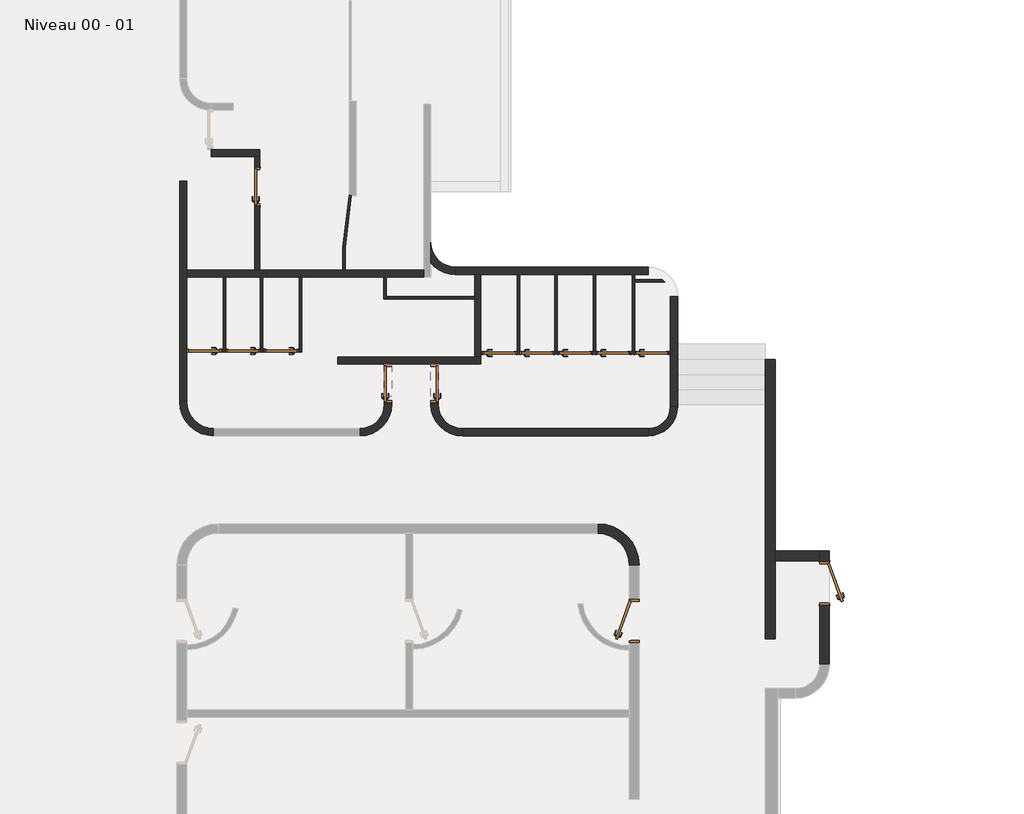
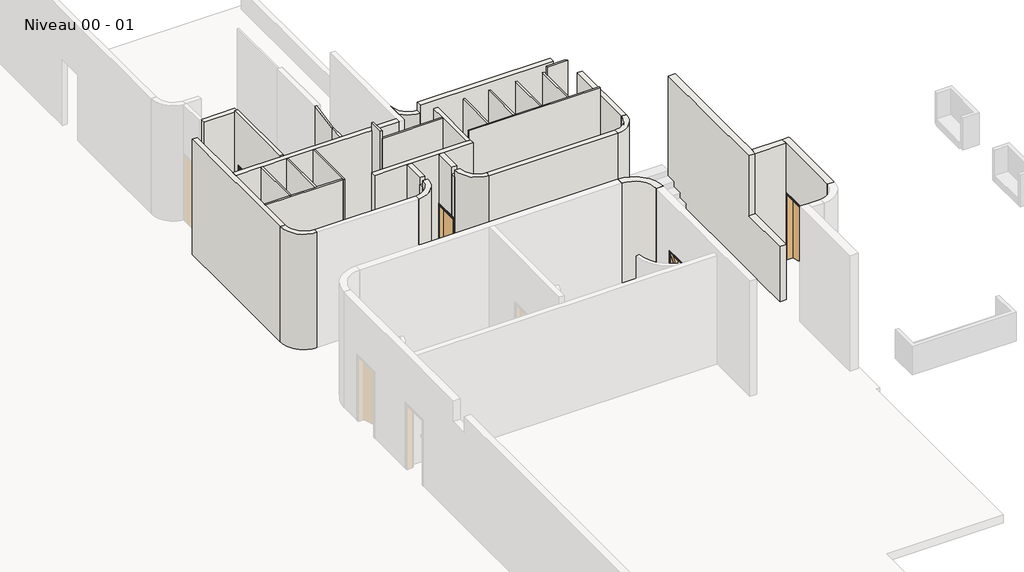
# One storey, part 6 of 8: 36 walls, 13 doors.
"""IFC4 building model written with IfcOpenShell, lengths in millimetres."""

from ifc_helpers import new_model, si_unit, point, frame, frame_2d, origin, place, context, project, spatial, polyline, circle_curve, trimmed, segment, composite_curve, outline, extrude, faceted_brep, transform, mapped, element, save
from ifc_brep_helpers import plane_surface, cylinder_surface, revolved_surface, advanced_brep
from components import door_eeb2bbe0, door_1f832047, door_bff29abf, door_23810e9f, door_a30d9446, door_0ca0b57b, door_4948b6b3

model = new_model("IFC4")

# Units and contexts
model_context = context("Model", 3, world=origin())
ifc_project = project(units=[si_unit("LENGTHUNIT", "METRE", prefix="MILLI")], contexts=[model_context])

# Site, building, storey
site = spatial("IfcSite", under=ifc_project)
building = spatial("IfcBuilding", under=site)
storey = spatial("IfcBuildingStorey", under=building, Name="Niveau 00 - 01", Elevation=253.3082742)

# Doors
placement = place(None, origin())
door_shape = door_eeb2bbe0(model_context)
element("IfcDoor", 1, ObjectType="@_Int. Simple : @_PP (0.73m x 2.04m)", at=placement, inside=storey, context=model_context, shape_type="MappedRepresentation", body=[
    mapped(door_shape, transform((-14350.58919, -7089.0543134, 253.3082742), x_axis=(0.0, 1.0, 0.0), y_axis=(-1.0, 0.0, 0.0), z_axis=(0.0, 0.0, 1.0))),
])
door_2_shape = door_1f832047(model_context)
element("IfcDoor", 2, ObjectType="@_Int. Simple : @_PP (0.73m x 2.04m)", at=placement, inside=storey, context=model_context, shape_type="MappedRepresentation", body=[
    mapped(door_2_shape, transform((-10722.9692071, -11123.990383, 253.3082742), x_axis=(0.0, 1.0, 0.0), y_axis=(-1.0, 0.0, 0.0), z_axis=(0.0, 0.0, 1.0))),
])
door_3_shape = door_bff29abf(model_context)
element("IfcDoor", 3, ObjectType="@_Int. Simple : @_PP (0.73m x 2.04m)", at=placement, inside=storey, context=model_context, shape_type="MappedRepresentation", body=[
    mapped(door_3_shape, transform((-11672.9692086, -11123.990383, 253.3082742), x_axis=(0.0, 1.0, 0.0), y_axis=(-1.0, 0.0, 0.0), z_axis=(0.0, 0.0, 1.0))),
])
door_4_shape = door_23810e9f(model_context)
element("IfcDoor", 4, ObjectType="@_Int. Simple : @_PP (0.63m x 2.04m)", at=placement, inside=storey, context=model_context, shape_type="MappedRepresentation", body=[
    mapped(door_4_shape, transform((-9352.1064579, -10527.4520844, 253.3082742), x_axis=(1.0, 0.0, 0.0), y_axis=(0.0, 1.0, 0.0), z_axis=(0.0, 0.0, 1.0))),
])
element("IfcDoor", 5, ObjectType="@_Int. Simple : @_PP (0.63m x 2.04m)", at=placement, inside=storey, context=model_context, shape_type="MappedRepresentation", body=[
    mapped(door_4_shape, transform((-8589.6122341, -10527.4520844, 253.3082742), x_axis=(1.0, 0.0, 0.0), y_axis=(0.0, 1.0, 0.0), z_axis=(0.0, 0.0, 1.0))),
])
element("IfcDoor", 6, ObjectType="@_Int. Simple : @_PP (0.63m x 2.04m)", at=placement, inside=storey, context=model_context, shape_type="MappedRepresentation", body=[
    mapped(door_4_shape, transform((-7805.4339388, -10527.4520844, 253.3082742), x_axis=(1.0, 0.0, 0.0), y_axis=(0.0, 1.0, 0.0), z_axis=(0.0, 0.0, 1.0))),
])
element("IfcDoor", 7, ObjectType="@_Int. Simple : @_PP (0.63m x 2.04m)", at=placement, inside=storey, context=model_context, shape_type="MappedRepresentation", body=[
    mapped(door_4_shape, transform((-7024.7375563, -10527.4520844, 253.3082742), x_axis=(1.0, 0.0, 0.0), y_axis=(0.0, 1.0, 0.0), z_axis=(0.0, 0.0, 1.0))),
])
element("IfcDoor", 8, ObjectType="@_Int. Simple : @_PP (0.63m x 2.04m)", at=placement, inside=storey, context=model_context, shape_type="MappedRepresentation", body=[
    mapped(door_4_shape, transform((-6236.8633627, -10527.4520844, 253.3082742), x_axis=(1.0, 0.0, 0.0), y_axis=(0.0, 1.0, 0.0), z_axis=(0.0, 0.0, 1.0))),
])
door_5_shape = door_a30d9446(model_context)
element("IfcDoor", 9, ObjectType="@_Int. Simple : @_PP (0.63m x 2.04m)", at=placement, inside=storey, context=model_context, shape_type="MappedRepresentation", body=[
    mapped(door_5_shape, transform((-15477.1989008, -10482.4520844, 253.3082742), x_axis=(-1.0, 0.0, 0.0), y_axis=(0.0, -1.0, 0.0), z_axis=(0.0, 0.0, 1.0))),
])
element("IfcDoor", 10, ObjectType="@_Int. Simple : @_PP (0.63m x 2.04m)", at=placement, inside=storey, context=model_context, shape_type="MappedRepresentation", body=[
    mapped(door_5_shape, transform((-14679.4683876, -10482.4520844, 253.3082742), x_axis=(-1.0, 0.0, 0.0), y_axis=(0.0, -1.0, 0.0), z_axis=(0.0, 0.0, 1.0))),
])
element("IfcDoor", 11, ObjectType="@_Int. Simple : @_PP (0.63m x 2.04m)", at=placement, inside=storey, context=model_context, shape_type="MappedRepresentation", body=[
    mapped(door_5_shape, transform((-13889.1961506, -10482.4520844, 253.3082742), x_axis=(-1.0, 0.0, 0.0), y_axis=(0.0, -1.0, 0.0), z_axis=(0.0, 0.0, 1.0))),
])
door_6_shape = door_0ca0b57b(model_context)
element("IfcDoor", 12, ObjectType="@_Int. Simple : @_PP (0.83m x 2.04m)", at=placement, inside=storey, context=model_context, shape_type="MappedRepresentation", body=[
    mapped(door_6_shape, transform((-2732.6697104, -15214.4449697, 253.3082742), x_axis=(0.0, 1.0, 0.0), y_axis=(-1.0, 0.0, 0.0), z_axis=(0.0, 0.0, 1.0))),
])
door_7_shape = door_4948b6b3(model_context)
element("IfcDoor", 13, ObjectType="@_Int. Simple : @_PP (0.83m x 2.04m)", at=placement, inside=storey, context=model_context, shape_type="MappedRepresentation", body=[
    mapped(door_7_shape, transform((-6631.0863278, -15984.0885527, 253.3082742), x_axis=(0.0, 1.0, 0.0), y_axis=(-1.0, 0.0, 0.0), z_axis=(0.0, 0.0, 1.0))),
])

# Walls
element("IfcWall", 14, ObjectType="@_Générique - Int. 100 mm", at=placement, inside=storey, context=model_context, shape_type="Brep", body=[
    faceted_brep([(-14400.58919, -8826.6151381, 253.3082742), (-14400.58919, -8826.6151381, 3921.8727639), (-14400.58919, -6509.0543134, 3921.8727639), (-14400.58919, -6509.0543134, 253.3082742), (-14400.58919, -6724.0543134, 253.3082742), (-14400.58919, -6724.0543134, 2328.3082742), (-14400.58919, -7524.0543134, 2328.3082742), (-14400.58919, -7524.0543134, 253.3082742), (-14300.58919, -8826.6151381, 3921.8727639), (-14300.58919, -8826.6151381, 253.3082742), (-14300.58919, -7524.0543134, 253.3082742), (-14300.58919, -7524.0543134, 2328.3082742), (-14300.58919, -6724.0543134, 2328.3082742), (-14300.58919, -6724.0543134, 253.3082742), (-14300.58919, -6509.0543134, 253.3082742), (-14300.58919, -6509.0543134, 3871.8727639), (-14300.58919, -6509.0543134, 3921.8727639)], [[[0, 1, 2, 3, 4, 5, 6, 7]], [[8, 9, 10, 11, 12, 13, 14, 15, 16]], [[9, 0, 7, 10]], [[3, 14, 13, 4]], [[1, 0, 9, 8]], [[2, 1, 8, 16]], [[3, 2, 16, 15, 14]], [[12, 5, 4, 13]], [[6, 11, 10, 7]], [[11, 6, 5, 12]]]),
])
element("IfcWall", 15, ObjectType="@_Générique - Int. 120 mm", at=placement, inside=storey, context=model_context, shape_type="Brep", body=[
    faceted_brep([(-9897.1064579, -8921.2578611, 253.3082742), (-9897.1064579, -9371.6151381, 253.3082742), (-9897.1064579, -9421.6151381, 253.3082742), (-9897.1064579, -10608.990383, 253.3082742), (-9897.1064579, -10608.990383, 3871.8727639), (-9897.1064579, -9421.6151381, 3871.8727639), (-9897.1064579, -9371.6151381, 3871.8727639), (-9897.1064579, -8921.2578611, 3871.8727639), (-9777.1064579, -8921.2578611, 253.3082742), (-9777.1064579, -8921.2578611, 3871.8727639), (-9777.1064579, -10608.990383, 3871.8727639), (-9777.1064579, -10608.990383, 253.3082742), (-9777.1064579, -10552.4520844, 253.3082742), (-9777.1064579, -10502.4520844, 253.3082742)], [[[0, 1, 2, 3, 4, 5, 6, 7]], [[8, 9, 10, 11, 12, 13]], [[3, 2, 1, 0, 8, 13, 12, 11]], [[4, 3, 11, 10]], [[0, 7, 9, 8]], [[7, 6, 5, 4, 10, 9]]]),
])
element("IfcWall", 16, ObjectType="@_Générique - Int. 50 mm", at=placement, inside=storey, context=model_context, shape_type="Brep", body=[
    faceted_brep([(-13443.9891644, -10507.4520844, 253.3082742), (-13443.9891644, -8976.6151381, 253.3082742), (-13443.9891644, -8976.6151381, 3871.8727639), (-13443.9891644, -10507.4520844, 3871.8727639), (-13493.9891644, -10507.4520844, 253.3082742), (-13493.9891644, -10507.4520844, 3871.8727639), (-13493.9891644, -10457.4520844, 3871.8727639), (-13493.9891644, -8976.6151381, 3871.8727639), (-13493.9891644, -8976.6151381, 253.3082742), (-13493.9891644, -10457.4520844, 253.3082742)], [[[0, 1, 2, 3]], [[4, 5, 6, 7, 8, 9]], [[1, 0, 4, 9, 8]], [[0, 3, 5, 4]], [[2, 1, 8, 7]], [[3, 2, 7, 6, 5]]]),
])
element("IfcWall", 17, ObjectType="@_Générique - Int. 50 mm", at=placement, inside=storey, context=model_context, shape_type="Brep", body=[
    faceted_brep([(-13493.9891644, -10457.4520844, 3871.8727639), (-13493.9891644, -10457.4520844, 253.3082742), (-13504.1961506, -10457.4520844, 253.3082742), (-13504.1961506, -10457.4520844, 2328.3082742), (-14204.1961506, -10457.4520844, 2328.3082742), (-14204.1961506, -10457.4520844, 253.3082742), (-14240.58919, -10457.4520844, 253.3082742), (-14290.58919, -10457.4520844, 253.3082742), (-14294.4683876, -10457.4520844, 253.3082742), (-14294.4683876, -10457.4520844, 2328.3082742), (-14994.4683876, -10457.4520844, 2328.3082742), (-14994.4683876, -10457.4520844, 253.3082742), (-15044.4683876, -10457.4520844, 253.3082742), (-15092.1989008, -10457.4520844, 253.3082742), (-15092.1989008, -10457.4520844, 2328.3082742), (-15792.1989008, -10457.4520844, 2328.3082742), (-15792.1989008, -10457.4520844, 253.3082742), (-15793.989168, -10457.4520844, 253.3082742), (-15793.989168, -10457.4520844, 3871.8727639), (-15044.4683876, -10457.4520844, 3871.8727639), (-14994.4683876, -10457.4520844, 3871.8727639), (-14290.58919, -10457.4520844, 3871.8727639), (-14240.58919, -10457.4520844, 3871.8727639), (-13493.9891644, -10507.4520844, 253.3082742), (-13493.9891644, -10507.4520844, 3871.8727639), (-15793.989168, -10507.4520844, 3871.8727639), (-15793.989168, -10507.4520844, 253.3082742), (-15792.1989008, -10507.4520844, 253.3082742), (-15792.1989008, -10507.4520844, 2328.3082742), (-15092.1989008, -10507.4520844, 2328.3082742), (-15092.1989008, -10507.4520844, 253.3082742), (-14994.4683876, -10507.4520844, 253.3082742), (-14994.4683876, -10507.4520844, 2328.3082742), (-14294.4683876, -10507.4520844, 2328.3082742), (-14294.4683876, -10507.4520844, 253.3082742), (-14204.1961506, -10507.4520844, 253.3082742), (-14204.1961506, -10507.4520844, 2328.3082742), (-13504.1961506, -10507.4520844, 2328.3082742), (-13504.1961506, -10507.4520844, 253.3082742)], [[[0, 1, 2, 3, 4, 5, 6, 7, 8, 9, 10, 11, 12, 13, 14, 15, 16, 17, 18, 19, 20, 21, 22]], [[23, 24, 25, 26, 27, 28, 29, 30, 31, 32, 33, 34, 35, 36, 37, 38]], [[1, 23, 38, 2]], [[26, 17, 16, 27]], [[30, 13, 12, 11, 31]], [[34, 8, 7, 6, 5, 35]], [[1, 0, 24, 23]], [[18, 17, 26, 25]], [[16, 15, 28, 27]], [[28, 15, 14, 29]], [[14, 13, 30, 29]], [[11, 10, 32, 31]], [[10, 9, 33, 32]], [[9, 8, 34, 33]], [[4, 36, 35, 5]], [[36, 4, 3, 37]], [[37, 3, 2, 38]], [[0, 22, 21, 20, 19, 18, 25, 24]]]),
])
element("IfcWall", 18, ObjectType="@_Générique - Int. 50 mm", at=placement, inside=storey, context=model_context, shape_type="SweptSolid", body=[
    extrude(outline(polyline([(-7419.0411738, -8921.2578611), (-7419.0411738, -10502.4520844), (-7469.0411738, -10502.4520844), (-7469.0411738, -8921.2578611), (-7419.0411738, -8921.2578611)])), frame((0.0, 0.0, 253.3082742), z_axis=(0.0, 0.0, 1.0), x_axis=(1.0, 0.0, 0.0)), (0.0, 0.0, 1.0), 3618.5644896),
])
element("IfcWall", 19, ObjectType="@_Générique - Int. 50 mm", at=placement, inside=storey, context=model_context, shape_type="Brep", body=[
    faceted_brep([(-6619.0411738, -10502.4520844, 253.3082742), (-6619.0411738, -9074.388129, 253.3082742), (-6619.0411738, -9024.388129, 253.3082742), (-6619.0411738, -8921.2578611, 253.3082742), (-6619.0411738, -8921.2578611, 3871.8727639), (-6619.0411738, -10502.4520844, 3871.8727639), (-6669.0411738, -10502.4520844, 253.3082742), (-6669.0411738, -10502.4520844, 3871.8727639), (-6669.0411738, -8921.2578611, 3871.8727639), (-6669.0411738, -8921.2578611, 253.3082742), (-6621.8633627, -10502.4520844, 253.3082742)], [[[0, 1, 2, 3, 4, 5]], [[6, 7, 8, 9]], [[3, 2, 1, 0, 10, 6, 9]], [[4, 3, 9, 8]], [[0, 5, 7, 6, 10]], [[5, 4, 8, 7]]]),
])
element("IfcWall", 20, ObjectType="@_Générique - Int. 50 mm", at=placement, inside=storey, context=model_context, shape_type="SweptSolid", body=[
    extrude(outline(polyline([(-8211.8267039, -8921.2578611), (-8211.8267039, -10502.4520844), (-8261.8267039, -10502.4520844), (-8261.8267039, -8921.2578611), (-8211.8267039, -8921.2578611)])), frame((0.0, 0.0, 253.3082742), z_axis=(0.0, 0.0, 1.0), x_axis=(1.0, 0.0, 0.0)), (0.0, 0.0, 1.0), 3618.5644896),
])
element("IfcWall", 21, ObjectType="@_Générique - Int. 50 mm", at=placement, inside=storey, context=model_context, shape_type="Brep", body=[
    faceted_brep([(-8974.6122341, -10502.4520844, 253.3082742), (-8974.6122341, -8921.2578611, 253.3082742), (-8974.6122341, -8921.2578611, 3871.8727639), (-8974.6122341, -10502.4520844, 3871.8727639), (-8974.6122341, -10502.4520844, 2328.3082742), (-9024.6122341, -10502.4520844, 253.3082742), (-9024.6122341, -10502.4520844, 3871.8727639), (-9024.6122341, -8921.2578611, 3871.8727639), (-9024.6122341, -8921.2578611, 253.3082742)], [[[0, 1, 2, 3, 4]], [[5, 6, 7, 8]], [[1, 0, 5, 8]], [[2, 1, 8, 7]], [[0, 4, 3, 6, 5]], [[3, 2, 7, 6]]]),
])
element("IfcWall", 22, ObjectType="@_Générique - Int. 50 mm", at=placement, inside=storey, context=model_context, shape_type="SweptSolid", body=[
    extrude(outline(polyline([(-11707.6816324, -9371.6151381), (-9897.1064579, -9371.6151381), (-9897.1064579, -9421.6151381), (-11707.6816324, -9421.6151381), (-11707.6816324, -9371.6151381)])), frame((0.0, 0.0, 253.3082742), z_axis=(0.0, 0.0, 1.0), x_axis=(1.0, 0.0, 0.0)), (0.0, 0.0, 1.0), 3618.5644896),
])
element("IfcWall", 23, ObjectType="@_Générique - Int. 50 mm", at=placement, inside=storey, context=model_context, shape_type="Brep", body=[
    faceted_brep([(-11707.6816324, -9421.6151381, 253.3082742), (-11707.6816324, -9371.6151381, 253.3082742), (-11707.6816324, -8976.6151381, 253.3082742), (-11707.6816324, -8976.6151381, 4121.8727639), (-11707.6816324, -9421.6151381, 4121.8727639), (-11707.6816324, -9421.6151381, 3871.8727639), (-11757.6816324, -9421.6151381, 253.3082742), (-11757.6816324, -9421.6151381, 4121.8727639), (-11757.6816324, -8976.6151381, 4121.8727639), (-11757.6816324, -8976.6151381, 253.3082742)], [[[0, 1, 2, 3, 4, 5]], [[6, 7, 8, 9]], [[2, 1, 0, 6, 9]], [[4, 3, 8, 7]], [[3, 2, 9, 8]], [[0, 5, 4, 7, 6]]]),
])
element("IfcWall", 24, ObjectType="@_Générique - Int. 50 mm", at=placement, inside=storey, context=model_context, shape_type="SweptSolid", body=[
    extrude(outline(polyline([(-14240.58919, -8976.6151381), (-14240.58919, -10457.4520844), (-14290.58919, -10457.4520844), (-14290.58919, -8976.6151381), (-14240.58919, -8976.6151381)])), frame((0.0, 0.0, 253.3082742), z_axis=(0.0, 0.0, 1.0), x_axis=(1.0, 0.0, 0.0)), (0.0, 0.0, 1.0), 3618.5644896),
])
element("IfcWall", 25, ObjectType="@_Générique - Int. 50 mm", at=placement, inside=storey, context=model_context, shape_type="Brep", body=[
    faceted_brep([(-14994.4683876, -10457.4520844, 253.3082742), (-14994.4683876, -8976.6151381, 253.3082742), (-14994.4683876, -8976.6151381, 3871.8727639), (-14994.4683876, -10457.4520844, 3871.8727639), (-14994.4683876, -10457.4520844, 2328.3082742), (-15044.4683876, -10457.4520844, 253.3082742), (-15044.4683876, -10457.4520844, 3871.8727639), (-15044.4683876, -8976.6151381, 3871.8727639), (-15044.4683876, -8976.6151381, 253.3082742)], [[[0, 1, 2, 3, 4]], [[5, 6, 7, 8]], [[1, 0, 5, 8]], [[2, 1, 8, 7]], [[0, 4, 3, 6, 5]], [[3, 2, 7, 6]]]),
])
element("IfcWall", 26, ObjectType="@_Générique - Int. 50 mm", at=placement, inside=storey, context=model_context, shape_type="SweptSolid", body=[
    extrude(outline(polyline([(-12598.6184901, -8370.2050819), (-12473.0800803, -7296.0602627), (-12472.7391726, -7296.1001055), (-12472.7391726, -7302.156728), (-12423.4522682, -7302.156728), (-12548.6184901, -8373.1169943), (-12598.6184901, -8370.2050819)])), frame((0.0, 0.0, 253.3082742), z_axis=(0.0, 0.0, 1.0), x_axis=(1.0, 0.0, 0.0)), (0.0, 0.0, 1.0), 3618.5644896),
])
element("IfcWall", 27, ObjectType="@_Générique - Int. 50 mm", at=placement, inside=storey, context=model_context, shape_type="SweptSolid", body=[
    extrude(outline(polyline([(-12548.6184901, -8373.1169943), (-12548.6184901, -8823.8795173), (-12598.6184901, -8823.8795173), (-12598.6184901, -8370.2050819), (-12548.6184901, -8373.1169943)])), frame((0.0, 0.0, 253.3082742), z_axis=(0.0, 0.0, 1.0), x_axis=(1.0, 0.0, 0.0)), (0.0, 0.0, 1.0), 3618.5644896),
])
element("IfcWall", 28, ObjectType="@_Générique - Int. 50 mm", at=placement, inside=storey, context=model_context, shape_type="Brep", body=[
    faceted_brep([(-9777.1064579, -10502.4520844, 4121.8727639), (-5893.9891691, -10502.4520844, 4121.8727639), (-5893.9891691, -10502.4520844, 253.3082742), (-5921.8633627, -10502.4520844, 253.3082742), (-5921.8633627, -10502.4520844, 2328.3082742), (-6621.8633627, -10502.4520844, 2328.3082742), (-6621.8633627, -10502.4520844, 253.3082742), (-6669.0411738, -10502.4520844, 253.3082742), (-6709.7375563, -10502.4520844, 253.3082742), (-6709.7375563, -10502.4520844, 2328.3082742), (-7409.7375563, -10502.4520844, 2328.3082742), (-7409.7375563, -10502.4520844, 253.3082742), (-7419.0411738, -10502.4520844, 253.3082742), (-7469.0411738, -10502.4520844, 253.3082742), (-7490.4339388, -10502.4520844, 253.3082742), (-7490.4339388, -10502.4520844, 2328.3082742), (-8190.4339388, -10502.4520844, 2328.3082742), (-8190.4339388, -10502.4520844, 253.3082742), (-8211.8267039, -10502.4520844, 253.3082742), (-8261.8267039, -10502.4520844, 253.3082742), (-8274.6122341, -10502.4520844, 253.3082742), (-8274.6122341, -10502.4520844, 2328.3082742), (-8974.6122341, -10502.4520844, 2328.3082742), (-8974.6122341, -10502.4520844, 253.3082742), (-9024.6122341, -10502.4520844, 253.3082742), (-9037.1064579, -10502.4520844, 253.3082742), (-9037.1064579, -10502.4520844, 2328.3082742), (-9737.1064579, -10502.4520844, 2328.3082742), (-9737.1064579, -10502.4520844, 253.3082742), (-9777.1064579, -10502.4520844, 253.3082742), (-5893.9891691, -10552.4520844, 4121.8727639), (-9777.1064579, -10552.4520844, 4121.8727639), (-9777.1064579, -10552.4520844, 253.3082742), (-9737.1064579, -10552.4520844, 253.3082742), (-9737.1064579, -10552.4520844, 2328.3082742), (-9037.1064579, -10552.4520844, 2328.3082742), (-9037.1064579, -10552.4520844, 253.3082742), (-8974.6122341, -10552.4520844, 253.3082742), (-8974.6122341, -10552.4520844, 2328.3082742), (-8274.6122341, -10552.4520844, 2328.3082742), (-8274.6122341, -10552.4520844, 253.3082742), (-8190.4339388, -10552.4520844, 253.3082742), (-8190.4339388, -10552.4520844, 2328.3082742), (-7490.4339388, -10552.4520844, 2328.3082742), (-7490.4339388, -10552.4520844, 253.3082742), (-7409.7375563, -10552.4520844, 253.3082742), (-7409.7375563, -10552.4520844, 2328.3082742), (-6709.7375563, -10552.4520844, 2328.3082742), (-6709.7375563, -10552.4520844, 253.3082742), (-6621.8633627, -10552.4520844, 253.3082742), (-6621.8633627, -10552.4520844, 2328.3082742), (-5921.8633627, -10552.4520844, 2328.3082742), (-5921.8633627, -10552.4520844, 253.3082742), (-5893.9891691, -10552.4520844, 253.3082742)], [[[0, 1, 2, 3, 4, 5, 6, 7, 8, 9, 10, 11, 12, 13, 14, 15, 16, 17, 18, 19, 20, 21, 22, 23, 24, 25, 26, 27, 28, 29]], [[30, 31, 32, 33, 34, 35, 36, 37, 38, 39, 40, 41, 42, 43, 44, 45, 46, 47, 48, 49, 50, 51, 52, 53]], [[32, 29, 28, 33]], [[2, 53, 52, 3]], [[36, 25, 24, 23, 37]], [[40, 20, 19, 18, 17, 41]], [[44, 14, 13, 12, 11, 45]], [[48, 8, 7, 6, 49]], [[1, 0, 31, 30]], [[0, 29, 32, 31]], [[2, 1, 30, 53]], [[35, 26, 25, 36]], [[26, 35, 34, 27]], [[27, 34, 33, 28]], [[39, 21, 20, 40]], [[21, 39, 38, 22]], [[22, 38, 37, 23]], [[43, 15, 14, 44]], [[15, 43, 42, 16]], [[16, 42, 41, 17]], [[47, 9, 8, 48]], [[9, 47, 46, 10]], [[10, 46, 45, 11]], [[51, 4, 3, 52]], [[4, 51, 50, 5]], [[5, 50, 49, 6]]]),
])
element("IfcWall", 29, ObjectType="@_Générique - Int. 50 mm", at=placement, inside=storey, context=model_context, shape_type="SweptSolid", body=[
    extrude(outline(composite_curve([segment(polyline([(-6004.8830572, -9074.388129), (-6619.0411738, -9074.388129), (-6619.0411738, -9024.388129), (-6056.2367827, -9024.388129)]), True, "CONTINUOUS"), segment(trimmed(circle_curve(frame_2d((-6342.3099361, -9369.5786245)), 448.3239089), [point((-6056.2367827, -9024.388129))], [point((-6004.8830572, -9074.388129))], False, "CARTESIAN"), True, "CONTINUOUS")], self_intersect=False)), frame((0.0, 0.0, 253.3082742), z_axis=(0.0, 0.0, 1.0), x_axis=(1.0, 0.0, 0.0)), (0.0, 0.0, 1.0), 3868.5644896),
])
element("IfcWall", 30, ObjectType="Ext. Voile BA 150", at=placement, inside=storey, context=model_context, shape_type="Brep", body=[
    faceted_brep([(-15943.989168, -7009.054313, 253.3082742), (-15943.989168, -11529.1151401, 253.3082742), (-15943.989168, -11529.1151401, 3871.8727639), (-15943.989168, -7009.054313, 3871.8727639), (-15793.989168, -7009.054313, 253.3082742), (-15793.989168, -7009.054313, 3871.8727639), (-15793.989168, -8826.6151381, 3871.8727639), (-15793.989168, -8976.6151381, 3871.8727639), (-15793.989168, -10457.4520844, 3871.8727639), (-15793.989168, -10507.4520844, 3871.8727639), (-15793.989168, -11529.1151401, 3871.8727639), (-15793.989168, -11529.1151401, 253.3082742), (-15793.989168, -10507.4520844, 253.3082742), (-15793.989168, -10457.4520844, 253.3082742), (-15793.989168, -8976.6151381, 253.3082742), (-15793.989168, -8826.6151381, 253.3082742)], [[[0, 1, 2, 3]], [[4, 5, 6, 7, 8, 9, 10, 11, 12, 13, 14, 15]], [[1, 0, 4, 15, 14, 13, 12, 11]], [[2, 1, 11, 10]], [[0, 3, 5, 4]], [[3, 2, 10, 9, 8, 7, 6, 5]]]),
])
element("IfcWall", 31, ObjectType="Ext. Voile BA 150", at=placement, inside=storey, context=model_context, shape_type="SweptSolid", body=[
    extrude(outline(composite_curve([segment(polyline([(-15943.9891684, -11529.1151401), (-15793.9891684, -11529.1151401)]), True, "CONTINUOUS"), segment(trimmed(circle_curve(frame_2d((-15243.9891693, -11529.1151401)), 549.999999), [point((-15793.9891684, -11529.1151401))], [point((-15243.9891693, -12079.1151391))], True, "CARTESIAN"), True, "CONTINUOUS"), segment(polyline([(-15243.9891693, -12079.1151391), (-15243.9891693, -12229.1151391)]), True, "CONTINUOUS"), segment(trimmed(circle_curve(frame_2d((-15243.9891693, -11529.1151401)), 699.999999), [point((-15243.9891693, -12229.1151391))], [point((-15943.9891684, -11529.1151401))], False, "CARTESIAN"), True, "CONTINUOUS")], self_intersect=False)), frame((0.0, 0.0, 253.3082742), z_axis=(0.0, 0.0, 1.0), x_axis=(1.0, 0.0, 0.0)), (0.0, 0.0, 1.0), 3618.5644896),
])
element("IfcWall", 32, ObjectType="Ext. Voile BA 150", at=placement, inside=storey, context=model_context, shape_type="Brep", body=[
    faceted_brep([(-14300.58919, -6359.0543134, 253.3082742), (-15263.1997484, -6359.0543134, 253.3082742), (-15293.9891721, -6359.0543134, 253.3082742), (-15293.9891721, -6359.0543134, 3871.8727639), (-15263.1997484, -6359.0543134, 3871.8727639), (-14300.58919, -6359.0543134, 3871.8727639), (-14300.58919, -6509.0543134, 253.3082742), (-14300.58919, -6509.0543134, 3871.8727639), (-15293.9891721, -6509.0543134, 3871.8727639), (-15293.9891721, -6509.0543134, 253.3082742), (-14400.58919, -6509.0543134, 253.3082742)], [[[0, 1, 2, 3, 4, 5]], [[6, 7, 8, 9, 10]], [[2, 1, 0, 6, 10, 9]], [[3, 2, 9, 8]], [[5, 4, 3, 8, 7]], [[0, 5, 7, 6]]]),
])
element("IfcWall", 33, ObjectType="Ext. Voile BA 150", at=placement, inside=storey, context=model_context, shape_type="SweptSolid", body=[
    extrude(outline(polyline([(-6343.9891711, -12229.1151373), (-10147.9692064, -12229.1151373), (-10147.9692064, -12079.1151373), (-6343.9891711, -12079.1151373), (-6343.9891711, -12229.1151373)])), frame((0.0, 0.0, 253.3082742), z_axis=(0.0, 0.0, 1.0), x_axis=(1.0, 0.0, 0.0)), (0.0, 0.0, 1.0), 3618.5644896),
])
element("IfcWall", 34, ObjectType="Ext. Voile BA 150", at=placement, inside=storey, context=model_context, shape_type="SweptSolid", body=[
    extrude(outline(composite_curve([segment(polyline([(-5893.9891689, -11629.1151354), (-5743.9891689, -11629.1151354)]), True, "CONTINUOUS"), segment(trimmed(circle_curve(frame_2d((-6343.9891711, -11629.1151354)), 600.0000022), [point((-5743.9891689, -11629.1151354))], [point((-6343.9891711, -12229.1151377))], False, "CARTESIAN"), True, "CONTINUOUS"), segment(polyline([(-6343.9891711, -12229.1151377), (-6343.9891711, -12079.1151377)]), True, "CONTINUOUS"), segment(trimmed(circle_curve(frame_2d((-6343.9891711, -11629.1151354)), 450.0000022), [point((-6343.9891711, -12079.1151377))], [point((-5893.9891689, -11629.1151354))], True, "CARTESIAN"), True, "CONTINUOUS")], self_intersect=False)), frame((0.0, 0.0, 253.3082742), z_axis=(0.0, 0.0, 1.0), x_axis=(1.0, 0.0, 0.0)), (0.0, 0.0, 1.0), 3618.5644896),
])
element("IfcWall", 35, ObjectType="Ext. Voile BA 150", at=placement, inside=storey, context=model_context, shape_type="AdvancedBrep", body=[
    advanced_brep(
    [(-10797.9692066, -11579.1151412, 253.3082742), (-10647.9692066, -11579.1151412, 253.3082742), (-10147.9692064, -12079.1151414, 253.3082742), (-10147.9692064, -12229.1151414, 253.3082742), (-10147.9692064, -12229.1151414, 3871.8727639), (-10797.9692066, -11579.1151412, 3871.8727639), (-10797.9692066, -11579.1151412, 3653.3082742), (-10147.9692064, -12079.1151414, 3871.8727639), (-10647.9692066, -11579.1151412, 3871.8727639), (-10647.9692066, -11579.1151412, 3653.3082742)],
    [
        (0, 1),
        (1, 2, circle_curve(frame((-10147.9692064, -11579.1151412, 253.3082742), z_axis=(0.0, 0.0, 1.0), x_axis=(6.136551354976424e-10, -1.0, 0.0)), 500.0000002)),
        (2, 3),
        (3, 0, circle_curve(frame((-10147.9692064, -11579.1151412, 253.3082742), z_axis=(0.0, 0.0, -1.0), x_axis=(6.136551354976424e-10, -1.0, 0.0)), 650.0000002)),
        (4, 5, circle_curve(frame((-10147.9692064, -11579.1151412, 3871.8727639), z_axis=(0.0, 0.0, -1.0), x_axis=(6.136551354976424e-10, -1.0, 0.0)), 650.0000002)),
        (5, 6),
        (6, 0),
        (3, 4),
        (7, 4),
        (2, 7),
        (8, 7, circle_curve(frame((-10147.9692064, -11579.1151412, 3871.8727639), z_axis=(0.0, 0.0, 1.0), x_axis=(6.136551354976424e-10, -1.0, 0.0)), 500.0000002)),
        (1, 9),
        (9, 8),
        (5, 8),
    ],
    [
        plane_surface(frame((-10147.969206, -12229.1151414, 253.3082742), z_axis=(0.0, 0.0, -1.0), x_axis=(-1.0, -6.136550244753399e-10, 0.0))),
        cylinder_surface(frame((-10147.9692064, -11579.1151412, 253.3082742), z_axis=(0.0, 0.0, 1.0), x_axis=(6.136551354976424e-10, -1.0, 0.0)), 650.0000002),
        plane_surface(frame((-10147.9692064, -12229.1151414, 3871.8727639), z_axis=(1.0, 0.0, 0.0), x_axis=(0.0, 0.0, -1.0))),
        revolved_surface(polyline([(-10147.969206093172, -12079.1151414, 253.3082742), (-10147.969206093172, -12079.1151414, 3871.8727639)]), (-10147.9692064, -11579.1151412, 253.3082742), (0.0, 0.0, -1.0)),
        plane_surface(frame((-10647.9692066, -11579.1151412, 3871.8727639), z_axis=(0.0, 1.0, 0.0), x_axis=(0.0, 0.0, -1.0))),
        plane_surface(frame((-25843.9891731, 10670.8848595, 3871.8727639), z_axis=(0.0, 0.0, 1.0), x_axis=(0.0, 1.0, 0.0))),
    ],
    [
        (0, [[1, 2, 3, 4]]),
        (1, [[5, 6, 7, -4, 8]]),
        (2, [[9, -8, -3, 10]]),
        (3, [[11, -10, -2, 12, 13]]),
        (4, [[14, -13, -12, -1, -7, -6]]),
        (5, [[-5, -9, -11, -14]]),
    ],
),
])
element("IfcWall", 36, ObjectType="Ext. Voile BA 150", at=placement, inside=storey, context=model_context, shape_type="SweptSolid", body=[
    extrude(outline(polyline([(-11579.1151412, 253.3082742), (-11579.1151412, 3653.3082742), (-11423.2944563, 3653.3082742), (-11423.2944563, 2328.3082742), (-11558.990383, 2328.3082742), (-11558.990383, 253.3082742), (-11579.1151412, 253.3082742)])), frame((-10797.9692071, 0.0, 0.0), z_axis=(1.0, 0.0, 0.0), x_axis=(0.0, 1.0, 0.0)), (0.0, 0.0, 1.0), 150.0),
])
element("IfcWall", 37, ObjectType="Ext. Voile BA 150", at=placement, inside=storey, context=model_context, shape_type="AdvancedBrep", body=[
    advanced_brep(
    [(-11747.9692091, -11579.1151412, 253.3082742), (-11597.9692091, -11579.1151412, 253.3082742), (-12247.9692093, -12229.1151414, 253.3082742), (-12247.9692093, -12079.1151414, 253.3082742), (-12247.9692093, -12079.1151414, 3871.8727639), (-11747.9692091, -11579.1151412, 3871.8727639), (-11747.9692091, -11579.1151412, 3653.3082742), (-12247.9692093, -12229.1151414, 3871.8727639), (-11597.9692091, -11579.1151412, 3871.8727639), (-11597.9692091, -11579.1151412, 3653.3082742)],
    [
        (0, 1),
        (1, 2, circle_curve(frame((-12247.9692093, -11579.1151412, 253.3082742), z_axis=(0.0, 0.0, -1.0), x_axis=(-6.136551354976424e-10, -1.0, 0.0)), 650.0000002)),
        (2, 3),
        (3, 0, circle_curve(frame((-12247.9692093, -11579.1151412, 253.3082742), z_axis=(0.0, 0.0, 1.0), x_axis=(-6.136551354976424e-10, -1.0, 0.0)), 500.0000002)),
        (4, 5, circle_curve(frame((-12247.9692093, -11579.1151412, 3871.8727639), z_axis=(0.0, 0.0, 1.0), x_axis=(-6.136551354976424e-10, -1.0, 0.0)), 500.0000002)),
        (5, 6),
        (6, 0),
        (3, 4),
        (7, 4),
        (2, 7),
        (8, 7, circle_curve(frame((-12247.9692093, -11579.1151412, 3871.8727639), z_axis=(0.0, 0.0, -1.0), x_axis=(-6.136551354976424e-10, -1.0, 0.0)), 650.0000002)),
        (1, 9),
        (9, 8),
        (5, 8),
    ],
    [
        plane_surface(frame((-12247.9692096, -12079.1151414, 253.3082742), z_axis=(0.0, 0.0, -1.0), x_axis=(1.0, -6.136550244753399e-10, 0.0))),
        revolved_surface(polyline([(-12247.969209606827, -12079.1151414, 253.3082742), (-12247.969209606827, -12079.1151414, 3871.8727639)]), (-12247.9692093, -11579.1151412, 253.3082742), (0.0, 0.0, -1.0)),
        plane_surface(frame((-12247.9692093, -12079.1151414, 3871.8727639), z_axis=(-1.0, 0.0, 0.0), x_axis=(0.0, 0.0, -1.0))),
        cylinder_surface(frame((-12247.9692093, -11579.1151412, 253.3082742), z_axis=(0.0, 0.0, 1.0), x_axis=(-6.136551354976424e-10, -1.0, 0.0)), 650.0000002),
        plane_surface(frame((-11597.9692091, -11579.1151412, 3871.8727639), z_axis=(0.0, 1.0, 0.0), x_axis=(0.0, 0.0, -1.0))),
        plane_surface(frame((-25843.9891731, 10670.8848595, 3871.8727639), z_axis=(0.0, 0.0, 1.0), x_axis=(0.0, 1.0, 0.0))),
    ],
    [
        (0, [[1, 2, 3, 4]]),
        (1, [[5, 6, 7, -4, 8]]),
        (2, [[9, -8, -3, 10]]),
        (3, [[11, -10, -2, 12, 13]]),
        (4, [[14, -13, -12, -1, -7, -6]]),
        (5, [[-5, -9, -11, -14]]),
    ],
),
])
element("IfcWall", 38, ObjectType="Ext. Voile BA 150", at=placement, inside=storey, context=model_context, shape_type="SweptSolid", body=[
    extrude(outline(polyline([(-11579.1151412, 253.3082742), (-11579.1151412, 3653.3082742), (-11423.2944563, 3653.3082742), (-11423.2944563, 2328.3082742), (-11558.990383, 2328.3082742), (-11558.990383, 253.3082742), (-11579.1151412, 253.3082742)])), frame((-11747.9692086, 0.0, 0.0), z_axis=(1.0, 0.0, 0.0), x_axis=(0.0, 1.0, 0.0)), (0.0, 0.0, 1.0), 150.0),
])
element("IfcWall", 39, ObjectType="Ext. Voile BA 150", at=placement, inside=storey, context=model_context, shape_type="AdvancedBrep", body=[
    advanced_brep(
    [(-10793.98917, -8686.5890537, 253.3082742), (-10793.9891699, -8271.2578605, 253.3082742), (-10293.9891688, -8771.2578612, 253.3082742), (-10293.9891687, -8921.2578612, 253.3082742), (-10293.9891687, -8921.2578612, 3871.8727639), (-10793.98917, -8686.5890537, 3871.8727639), (-10293.9891688, -8771.2578612, 3871.8727639), (-10793.9891699, -8271.2578605, 3871.8727639)],
    [
        (0, 1),
        (1, 2, circle_curve(frame((-10293.9891692, -8271.2578605, 253.3082742), z_axis=(0.0, 0.0, 1.0), x_axis=(7.559469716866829e-10, -1.0, 0.0)), 500.0000006)),
        (2, 3),
        (3, 0, circle_curve(frame((-10293.9891692, -8271.2578605, 253.3082742), z_axis=(0.0, 0.0, -1.0), x_axis=(7.559469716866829e-10, -1.0, 0.0)), 650.0000006)),
        (4, 5, circle_curve(frame((-10293.9891692, -8271.2578605, 3871.8727639), z_axis=(0.0, 0.0, -1.0), x_axis=(7.559469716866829e-10, -1.0, 0.0)), 650.0000006)),
        (5, 0),
        (3, 4),
        (6, 4),
        (2, 6),
        (7, 6, circle_curve(frame((-10293.9891692, -8271.2578605, 3871.8727639), z_axis=(0.0, 0.0, 1.0), x_axis=(7.559469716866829e-10, -1.0, 0.0)), 500.0000006)),
        (1, 7),
        (5, 7),
    ],
    [
        plane_surface(frame((-10293.9891687, -8921.2578612, 253.3082742), z_axis=(0.0, 0.0, -1.0), x_axis=(-1.0, -7.559469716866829e-10, 0.0))),
        cylinder_surface(frame((-10293.9891692, -8271.2578605, 253.3082742), z_axis=(0.0, 0.0, 1.0), x_axis=(7.559469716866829e-10, -1.0, 0.0)), 650.0000006),
        plane_surface(frame((-10293.9891687, -8921.2578612, 3871.8727639), z_axis=(1.0, 7.559278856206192e-10, 0.0), x_axis=(0.0, 0.0, -1.0))),
        revolved_surface(polyline([(-10293.989168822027, -8771.257861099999, 253.3082742), (-10293.989168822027, -8771.257861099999, 3871.8727639)]), (-10293.9891692, -8271.2578605, 253.3082742), (0.0, 0.0, -1.0)),
        plane_surface(frame((-10793.98917, -4563.6719012, 253.3082742), z_axis=(-1.0, 0.0, 0.0), x_axis=(0.0, 1.0, 0.0))),
        plane_surface(frame((-25843.9891731, 10670.8848595, 3871.8727639), z_axis=(0.0, 0.0, 1.0), x_axis=(0.0, 1.0, 0.0))),
    ],
    [
        (0, [[1, 2, 3, 4]]),
        (1, [[5, 6, -4, 7]]),
        (2, [[8, -7, -3, 9]]),
        (3, [[10, -9, -2, 11]]),
        (4, [[12, -11, -1, -6]]),
        (5, [[-5, -8, -10, -12]]),
    ],
),
])
element("IfcWall", 40, ObjectType="Ext. Voile BA 150", at=placement, inside=storey, context=model_context, shape_type="Brep", body=[
    faceted_brep([(-6342.3099381, -8771.2578611, 253.3082742), (-10293.9891688, -8771.2578611, 253.3082742), (-10293.9891688, -8771.2578611, 3871.8727639), (-10293.9891688, -8771.2578611, 4121.8727639), (-6342.3099381, -8771.2578611, 4121.8727639), (-6342.3099381, -8771.2578611, 3871.8727639), (-6342.3099381, -8921.2578611, 253.3082742), (-6342.3099381, -8921.2578611, 3871.8727639), (-6342.3099381, -8921.2578611, 4121.8727639), (-10293.9891688, -8921.2578611, 4121.8727639), (-10293.9891688, -8921.2578611, 3871.8727639), (-10293.9891688, -8921.2578611, 253.3082742), (-9897.1064579, -8921.2578611, 253.3082742), (-9777.1064579, -8921.2578611, 253.3082742), (-9024.6122341, -8921.2578611, 253.3082742), (-8974.6122341, -8921.2578611, 253.3082742), (-8261.8267039, -8921.2578611, 253.3082742), (-8211.8267039, -8921.2578611, 253.3082742), (-7469.0411738, -8921.2578611, 253.3082742), (-7419.0411738, -8921.2578611, 253.3082742), (-6669.0411738, -8921.2578611, 253.3082742), (-6619.0411738, -8921.2578611, 253.3082742)], [[[0, 1, 2, 3, 4, 5]], [[6, 7, 8, 9, 10, 11, 12, 13, 14, 15, 16, 17, 18, 19, 20, 21]], [[1, 0, 6, 21, 20, 19, 18, 17, 16, 15, 14, 13, 12, 11]], [[3, 2, 1, 11, 10, 9]], [[4, 3, 9, 8]], [[0, 5, 4, 8, 7, 6]]]),
])
element("IfcWall", 41, ObjectType="Ext. Voile BA 150", at=placement, inside=storey, context=model_context, shape_type="Brep", body=[
    faceted_brep([(-5893.9891691, -9369.5786245, 253.3082742), (-5893.9891691, -10502.4520844, 253.3082742), (-5893.9891691, -10552.4520844, 253.3082742), (-5893.9891691, -11629.1151354, 253.3082742), (-5893.9891691, -11629.1151354, 3871.8727639), (-5893.9891691, -9369.5786245, 3871.8727639), (-5743.9891691, -9369.5786245, 253.3082742), (-5743.9891691, -9369.5786245, 3871.8727639), (-5743.9891691, -11629.1151354, 3871.8727639), (-5743.9891691, -11629.1151354, 253.3082742)], [[[0, 1, 2, 3, 4, 5]], [[6, 7, 8, 9]], [[3, 2, 1, 0, 6, 9]], [[4, 3, 9, 8]], [[0, 5, 7, 6]], [[5, 4, 8, 7]]]),
])
element("IfcWall", 42, ObjectType="Ext. Voile BA 150", at=placement, inside=storey, context=model_context, shape_type="Brep", body=[
    faceted_brep([(-10943.98917, -8826.6151381, 253.3082742), (-15793.989168, -8826.6151381, 253.3082742), (-15793.989168, -8826.6151381, 3871.8727639), (-10943.98917, -8826.6151381, 3871.8727639), (-10943.98917, -8976.6151381, 253.3082742), (-10943.98917, -8976.6151381, 3871.8727639), (-13443.9891644, -8976.6151381, 3871.8727639), (-13493.9891644, -8976.6151381, 3871.8727639), (-14240.58919, -8976.6151381, 3871.8727639), (-14290.58919, -8976.6151381, 3871.8727639), (-14994.4683876, -8976.6151381, 3871.8727639), (-15044.4683876, -8976.6151381, 3871.8727639), (-15793.989168, -8976.6151381, 3871.8727639), (-15793.989168, -8976.6151381, 253.3082742), (-15044.4683876, -8976.6151381, 253.3082742), (-14994.4683876, -8976.6151381, 253.3082742), (-14290.58919, -8976.6151381, 253.3082742), (-14240.58919, -8976.6151381, 253.3082742), (-13493.9891644, -8976.6151381, 253.3082742), (-13443.9891644, -8976.6151381, 253.3082742), (-11757.6816324, -8976.6151381, 253.3082742), (-11707.6816324, -8976.6151381, 253.3082742)], [[[0, 1, 2, 3]], [[4, 5, 6, 7, 8, 9, 10, 11, 12, 13, 14, 15, 16, 17, 18, 19, 20, 21]], [[1, 0, 4, 21, 20, 19, 18, 17, 16, 15, 14, 13]], [[3, 2, 12, 11, 10, 9, 8, 7, 6, 5]], [[2, 1, 13, 12]], [[0, 3, 5, 4]]]),
])
element("IfcWall", 43, ObjectType="Ext. Voile BA 150", at=placement, inside=storey, context=model_context, shape_type="Brep", body=[
    faceted_brep([(-9777.1064579, -10608.990383, 253.3082742), (-9897.1064579, -10608.990383, 253.3082742), (-12698.9891689, -10608.990383, 253.3082742), (-12698.9891689, -10608.990383, 3871.8727639), (-9897.1064579, -10608.990383, 3871.8727639), (-9777.1064579, -10608.990383, 3871.8727639), (-9777.1064579, -10758.990383, 253.3082742), (-9777.1064579, -10758.990383, 3871.8727639), (-10647.9692071, -10758.990383, 3871.8727639), (-10797.9692071, -10758.990383, 3871.8727639), (-11597.9692086, -10758.990383, 3871.8727639), (-11747.9692086, -10758.990383, 3871.8727639), (-12698.9891689, -10758.990383, 3871.8727639), (-12698.9891689, -10758.990383, 253.3082742)], [[[0, 1, 2, 3, 4, 5]], [[6, 7, 8, 9, 10, 11, 12, 13]], [[2, 1, 0, 6, 13]], [[3, 2, 13, 12]], [[0, 5, 7, 6]], [[5, 4, 3, 12, 11, 10, 9, 8, 7]]]),
])
element("IfcWall", 44, ObjectType="Ext. Voile BA 150", at=placement, inside=storey, context=model_context, shape_type="Brep", body=[
    faceted_brep([(-11747.9692086, -11423.2944563, 3871.8727639), (-11747.9692086, -10758.990383, 3871.8727639), (-11747.9692086, -10758.990383, 2328.3082742), (-11747.9692086, -11423.2944563, 2328.3082742), (-11747.9692086, -11423.2944563, 3653.3082742), (-11597.9692086, -10758.990383, 3871.8727639), (-11597.9692086, -11423.2944563, 3871.8727639), (-11597.9692086, -11423.2944563, 3653.3082742), (-11597.9692086, -11423.2944563, 2328.3082742), (-11597.9692086, -10758.990383, 2328.3082742)], [[[0, 1, 2, 3, 4]], [[5, 6, 7, 8, 9]], [[6, 0, 4, 3, 8, 7]], [[1, 5, 9, 2]], [[3, 2, 9, 8]], [[1, 0, 6, 5]]]),
])
element("IfcWall", 45, ObjectType="Ext. Voile BA 150", at=placement, inside=storey, context=model_context, shape_type="Brep", body=[
    faceted_brep([(-10797.9692071, -11423.2944563, 3871.8727639), (-10797.9692071, -10758.990383, 3871.8727639), (-10797.9692071, -10758.990383, 2328.3082742), (-10797.9692071, -11423.2944563, 2328.3082742), (-10797.9692071, -11423.2944563, 3653.3082742), (-10647.9692071, -10758.990383, 3871.8727639), (-10647.9692071, -11423.2944563, 3871.8727639), (-10647.9692071, -11423.2944563, 3653.3082742), (-10647.9692071, -11423.2944563, 2328.3082742), (-10647.9692071, -10758.990383, 2328.3082742)], [[[0, 1, 2, 3, 4]], [[5, 6, 7, 8, 9]], [[6, 0, 4, 3, 8, 7]], [[1, 5, 9, 2]], [[3, 2, 9, 8]], [[1, 0, 6, 5]]]),
])
element("IfcWall", 46, ObjectType="Ext. Voile BA 200", at=placement, inside=storey, context=model_context, shape_type="SweptSolid", body=[
    extrude(outline(composite_curve([segment(polyline([(-6531.0863276, -14879.1151427), (-6731.0863276, -14879.1151422)]), True, "CONTINUOUS"), segment(trimmed(circle_curve(frame_2d((-7381.086328, -14879.1151405)), 650.0000004), [point((-6731.0863276, -14879.1151422))], [point((-7381.086328, -14229.1151401))], True, "CARTESIAN"), True, "CONTINUOUS"), segment(polyline([(-7381.086328, -14229.1151401), (-7381.086328, -14029.1151401)]), True, "CONTINUOUS"), segment(trimmed(circle_curve(frame_2d((-7381.086328, -14879.1151405)), 850.0000004), [point((-7381.086328, -14029.1151401))], [point((-6531.0863276, -14879.1151427))], False, "CARTESIAN"), True, "CONTINUOUS")], self_intersect=False)), frame((0.0, 0.0, 253.3082742), z_axis=(0.0, 0.0, 1.0), x_axis=(1.0, 0.0, 0.0)), (0.0, 0.0, 1.0), 3618.5644896),
])
element("IfcWall", 47, ObjectType="Ext. Voile BA 200", at=placement, inside=storey, context=model_context, shape_type="Brep", body=[
    faceted_brep([(-2832.6697104, -16906.0422493, 253.3082742), (-2832.6697104, -16906.0422493, 3871.8727639), (-2832.6697104, -14790.322552, 3871.8727639), (-2832.6697104, -14590.322552, 3871.8727639), (-2832.6697104, -14590.322552, 253.3082742), (-2832.6697104, -14790.322552, 253.3082742), (-2832.6697104, -14799.4449697, 253.3082742), (-2832.6697104, -14799.4449697, 2328.3082742), (-2832.6697104, -15699.4449697, 2328.3082742), (-2832.6697104, -15699.4449697, 253.3082742), (-2632.6697104, -16906.0422493, 3871.8727639), (-2632.6697104, -16906.0422493, 253.3082742), (-2632.6697104, -15699.4449697, 253.3082742), (-2632.6697104, -15699.4449697, 2328.3082742), (-2632.6697104, -14799.4449697, 2328.3082742), (-2632.6697104, -14799.4449697, 253.3082742), (-2632.6697104, -14590.322552, 253.3082742), (-2632.6697104, -14590.322552, 893.3082742), (-2632.6697104, -14590.322552, 3871.8727639), (-2632.6697104, -14670.322552, 3871.8727639), (-2632.6697104, -16428.8474044, 3871.8727639), (-2632.6697104, -16498.8474044, 3871.8727639)], [[[0, 1, 2, 3, 4, 5, 6, 7, 8, 9]], [[10, 11, 12, 13, 14, 15, 16, 17, 18, 19, 20, 21]], [[11, 0, 9, 12]], [[4, 16, 15, 6, 5]], [[1, 0, 11, 10]], [[3, 2, 1, 10, 21, 20, 19, 18]], [[14, 7, 6, 15]], [[8, 13, 12, 9]], [[13, 8, 7, 14]], [[16, 4, 3, 18, 17]]]),
])
element("IfcWall", 48, ObjectType="Ext. Voile BA 200", at=placement, inside=storey, context=model_context, shape_type="Brep", body=[
    faceted_brep([(-3743.9891754, -14790.322552, 3871.8727639), (-3743.9891754, -14790.322552, 1982.590519), (-3743.9891754, -14790.322552, 253.3082742), (-2832.6697104, -14790.322552, 253.3082742), (-2832.6697104, -14790.322552, 3871.8727639), (-3743.9891754, -14590.322552, 253.3082742), (-3743.9891754, -14590.322552, 3871.8727639), (-2832.6697104, -14590.322552, 3871.8727639), (-2832.6697104, -14590.322552, 253.3082742)], [[[0, 1, 2, 3, 4]], [[5, 6, 7, 8]], [[3, 2, 5, 8]], [[0, 6, 5, 2, 1]], [[0, 4, 7, 6]], [[3, 8, 7, 4]]]),
])
element("IfcWall", 49, ObjectType="Ext. Voile BA 200", at=placement, inside=storey, context=model_context, shape_type="Brep", body=[
    faceted_brep([(-3943.9891754, -10668.4285053, 253.3082742), (-3943.9891754, -16386.0422506, 253.3082742), (-3943.9891754, -16386.0422506, 1982.590519), (-3943.9891754, -14790.322552, 1982.590519), (-3943.9891754, -14790.322552, 3871.8727639), (-3943.9891754, -10668.4285053, 3871.8727639), (-3943.9891754, -10668.4285053, 893.3082742), (-3743.9891754, -10668.4285053, 253.3082742), (-3743.9891754, -10668.4285053, 893.3082742), (-3743.9891754, -10668.4285053, 3871.8727639), (-3743.9891754, -11531.3680999, 3871.8727639), (-3743.9891754, -11601.3680999, 3871.8727639), (-3743.9891754, -13660.3225488, 3871.8727639), (-3743.9891754, -13860.3225488, 3871.8727639), (-3743.9891754, -14590.322552, 3871.8727639), (-3743.9891754, -14790.322552, 3871.8727639), (-3743.9891754, -14790.322552, 1982.590519), (-3743.9891754, -16386.0422506, 1982.590519), (-3743.9891754, -16386.0422506, 253.3082742), (-3743.9891754, -14790.322552, 253.3082742), (-3743.9891754, -14590.322552, 253.3082742)], [[[0, 1, 2, 3, 4, 5, 6]], [[7, 8, 9, 10, 11, 12, 13, 14, 15, 16, 17, 18, 19, 20]], [[1, 0, 7, 20, 19, 18]], [[2, 1, 18, 17]], [[0, 6, 5, 9, 8, 7]], [[3, 2, 17, 16]], [[4, 3, 16, 15]], [[5, 4, 15, 14, 13, 12, 11, 10, 9]]]),
])

save(model, "model.ifc")
